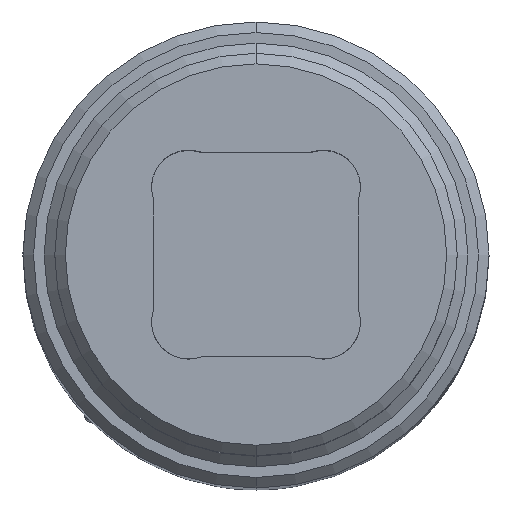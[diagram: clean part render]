
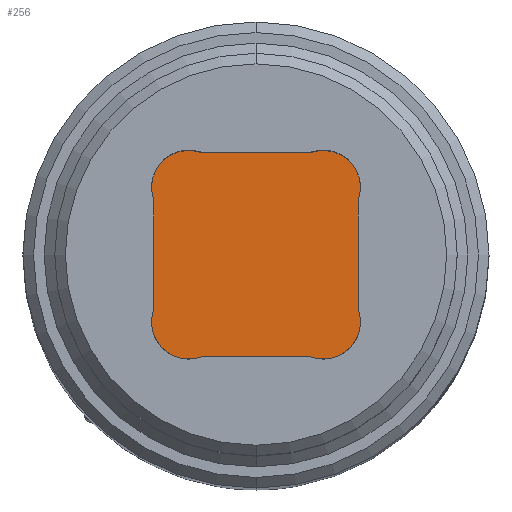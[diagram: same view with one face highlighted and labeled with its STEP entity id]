
A CAD part, top view. The second image highlights one B-rep face of the part: STEP entity #256.
In plain terms, the highlighted planar face has unit normal (0, 0, 1).
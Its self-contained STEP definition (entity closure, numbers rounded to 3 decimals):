
#5 = EDGE_CURVE ( 'NONE', #6493, #6676, #2162, .T. ) ;
#187 = CARTESIAN_POINT ( 'NONE',  ( 19.653, -27.448, 44.48 ) ) ;
#256 = ADVANCED_FACE ( 'NONE', ( #4688 ), #7886, .T. ) ;
#307 = ORIENTED_EDGE ( 'NONE', *, *, #2586, .T. ) ;
#430 = CARTESIAN_POINT ( 'NONE',  ( 20.158, -25.773, 44.48 ) ) ;
#469 = VERTEX_POINT ( 'NONE', #3594 ) ;
#504 = CARTESIAN_POINT ( 'NONE',  ( 28.65, -33.019, 44.48 ) ) ;
#538 = DIRECTION ( 'NONE',  ( 0., -1., 0. ) ) ;
#581 = VECTOR ( 'NONE', #6002, 1000. ) ;
#653 = ORIENTED_EDGE ( 'NONE', *, *, #5574, .T. ) ;
#700 = DIRECTION ( 'NONE',  ( 0., -1., 0. ) ) ;
#780 = AXIS2_PLACEMENT_3D ( 'NONE', #6332, #8509, #6971 ) ;
#829 = CARTESIAN_POINT ( 'NONE',  ( 25.512, -35.488, 44.48 ) ) ;
#867 = VERTEX_POINT ( 'NONE', #9206 ) ;
#919 = DIRECTION ( 'NONE',  ( 0., 0., 1. ) ) ;
#926 = AXIS2_PLACEMENT_3D ( 'NONE', #6164, #3962, #7624 ) ;
#1009 = CARTESIAN_POINT ( 'NONE',  ( 26.017, -27.448, 44.48 ) ) ;
#1018 = EDGE_CURVE ( 'NONE', #6676, #2036, #4561, .T. ) ;
#1019 = ORIENTED_EDGE ( 'NONE', *, *, #5186, .T. ) ;
#1092 = ORIENTED_EDGE ( 'NONE', *, *, #9053, .T. ) ;
#1103 = AXIS2_PLACEMENT_3D ( 'NONE', #504, #4168, #538 ) ;
#1339 = DIRECTION ( 'NONE',  ( 1., 0., 0. ) ) ;
#1346 = DIRECTION ( 'NONE',  ( 0., 0., -1. ) ) ;
#1426 = CIRCLE ( 'NONE', #8154, 1. ) ;
#1427 = CARTESIAN_POINT ( 'NONE',  ( 20.446, -36.445, 44.48 ) ) ;
#1481 = CARTESIAN_POINT ( 'NONE',  ( 20.446, -35.445, 44.48 ) ) ;
#1547 = ORIENTED_EDGE ( 'NONE', *, *, #4468, .T. ) ;
#1624 = DIRECTION ( 'NONE',  ( 0., -1., 0. ) ) ;
#1688 = ORIENTED_EDGE ( 'NONE', *, *, #6694, .T. ) ;
#1864 = DIRECTION ( 'NONE',  ( 0., -1., 0. ) ) ;
#1969 = CARTESIAN_POINT ( 'NONE',  ( 26.017, -33.812, 44.48 ) ) ;
#2000 = CARTESIAN_POINT ( 'NONE',  ( 17.977, -33.307, 44.48 ) ) ;
#2036 = VERTEX_POINT ( 'NONE', #7457 ) ;
#2102 = ORIENTED_EDGE ( 'NONE', *, *, #7222, .T. ) ;
#2156 = CARTESIAN_POINT ( 'NONE',  ( 25.512, -25.773, 44.48 ) ) ;
#2162 = CIRCLE ( 'NONE', #2747, 1.75 ) ;
#2228 = VERTEX_POINT ( 'NONE', #1481 ) ;
#2256 = CARTESIAN_POINT ( 'NONE',  ( 25.223, -35.445, 44.48 ) ) ;
#2262 = ORIENTED_EDGE ( 'NONE', *, *, #5314, .T. ) ;
#2308 = AXIS2_PLACEMENT_3D ( 'NONE', #5728, #1346, #5760 ) ;
#2411 = VECTOR ( 'NONE', #5794, 1000. ) ;
#2450 = CARTESIAN_POINT ( 'NONE',  ( 20.446, -25.815, 44.48 ) ) ;
#2512 = LINE ( 'NONE', #3175, #6627 ) ;
#2519 = LINE ( 'NONE', #6707, #581 ) ;
#2586 = EDGE_CURVE ( 'NONE', #2036, #867, #2519, .T. ) ;
#2620 = AXIS2_PLACEMENT_3D ( 'NONE', #5659, #5790, #6486 ) ;
#2696 = CIRCLE ( 'NONE', #780, 1. ) ;
#2734 = CARTESIAN_POINT ( 'NONE',  ( 19.653, -33.812, 44.48 ) ) ;
#2747 = AXIS2_PLACEMENT_3D ( 'NONE', #1969, #5529, #8568 ) ;
#2815 = DIRECTION ( 'NONE',  ( 0., -1., 0. ) ) ;
#2868 = CIRCLE ( 'NONE', #5261, 1.75 ) ;
#2881 = DIRECTION ( 'NONE',  ( 0., 0., -1. ) ) ;
#2954 = DIRECTION ( 'NONE',  ( 0., 0., -1. ) ) ;
#2956 = ORIENTED_EDGE ( 'NONE', *, *, #5025, .T. ) ;
#3046 = VERTEX_POINT ( 'NONE', #430 ) ;
#3056 = CARTESIAN_POINT ( 'NONE',  ( 20.158, -35.488, 44.48 ) ) ;
#3084 = EDGE_CURVE ( 'NONE', #6005, #5482, #3775, .T. ) ;
#3170 = CARTESIAN_POINT ( 'NONE',  ( 25.223, -25.815, 44.48 ) ) ;
#3175 = CARTESIAN_POINT ( 'NONE',  ( 18.02, -28.077, 44.48 ) ) ;
#3313 = DIRECTION ( 'NONE',  ( 0., -1., 0. ) ) ;
#3407 = VECTOR ( 'NONE', #1339, 1000. ) ;
#3547 = EDGE_CURVE ( 'NONE', #5713, #469, #2512, .T. ) ;
#3552 = DIRECTION ( 'NONE',  ( 0., 0., 1. ) ) ;
#3563 = AXIS2_PLACEMENT_3D ( 'NONE', #8543, #6238, #1864 ) ;
#3594 = CARTESIAN_POINT ( 'NONE',  ( 18.02, -33.019, 44.48 ) ) ;
#3686 = EDGE_CURVE ( 'NONE', #7104, #8146, #8234, .T. ) ;
#3739 = ORIENTED_EDGE ( 'NONE', *, *, #3686, .T. ) ;
#3775 = LINE ( 'NONE', #6437, #2411 ) ;
#3803 = VERTEX_POINT ( 'NONE', #9393 ) ;
#3962 = DIRECTION ( 'NONE',  ( 0., 0., -1. ) ) ;
#3974 = ORIENTED_EDGE ( 'NONE', *, *, #4699, .T. ) ;
#4053 = CIRCLE ( 'NONE', #5801, 1. ) ;
#4168 = DIRECTION ( 'NONE',  ( 0., 0., -1. ) ) ;
#4265 = DIRECTION ( 'NONE',  ( 0., -1., 0. ) ) ;
#4315 = AXIS2_PLACEMENT_3D ( 'NONE', #8654, #2881, #2815 ) ;
#4468 = EDGE_CURVE ( 'NONE', #867, #7104, #8388, .T. ) ;
#4474 = DIRECTION ( 'NONE',  ( 0., -1., 0. ) ) ;
#4561 = CIRCLE ( 'NONE', #1103, 1. ) ;
#4688 = FACE_OUTER_BOUND ( 'NONE', #7943, .T. ) ;
#4699 = EDGE_CURVE ( 'NONE', #3046, #3803, #2868, .T. ) ;
#4782 = AXIS2_PLACEMENT_3D ( 'NONE', #2734, #3552, #6450 ) ;
#4840 = CARTESIAN_POINT ( 'NONE',  ( 27.692, -33.307, 44.48 ) ) ;
#5025 = EDGE_CURVE ( 'NONE', #3803, #5713, #2696, .T. ) ;
#5111 = CIRCLE ( 'NONE', #2620, 1. ) ;
#5186 = EDGE_CURVE ( 'NONE', #5482, #3046, #5111, .T. ) ;
#5261 = AXIS2_PLACEMENT_3D ( 'NONE', #187, #919, #4474 ) ;
#5314 = EDGE_CURVE ( 'NONE', #6906, #2228, #1426, .T. ) ;
#5354 = VERTEX_POINT ( 'NONE', #2256 ) ;
#5482 = VERTEX_POINT ( 'NONE', #2450 ) ;
#5529 = DIRECTION ( 'NONE',  ( 0., 0., 1. ) ) ;
#5574 = EDGE_CURVE ( 'NONE', #8146, #6005, #9438, .T. ) ;
#5652 = CARTESIAN_POINT ( 'NONE',  ( 27.692, -27.953, 44.48 ) ) ;
#5659 = CARTESIAN_POINT ( 'NONE',  ( 20.446, -24.815, 44.48 ) ) ;
#5713 = VERTEX_POINT ( 'NONE', #8468 ) ;
#5728 = CARTESIAN_POINT ( 'NONE',  ( 28.65, -28.242, 44.48 ) ) ;
#5760 = DIRECTION ( 'NONE',  ( 0., -1., 0. ) ) ;
#5790 = DIRECTION ( 'NONE',  ( 0., 0., -1. ) ) ;
#5794 = DIRECTION ( 'NONE',  ( -1., 0., 0. ) ) ;
#5801 = AXIS2_PLACEMENT_3D ( 'NONE', #8688, #8005, #4265 ) ;
#6002 = DIRECTION ( 'NONE',  ( 0., 1., 0. ) ) ;
#6005 = VERTEX_POINT ( 'NONE', #3170 ) ;
#6017 = CIRCLE ( 'NONE', #4315, 1. ) ;
#6125 = DIRECTION ( 'NONE',  ( 0., 0., 1. ) ) ;
#6164 = CARTESIAN_POINT ( 'NONE',  ( 25.223, -24.815, 44.48 ) ) ;
#6238 = DIRECTION ( 'NONE',  ( 0., 0., 1. ) ) ;
#6332 = CARTESIAN_POINT ( 'NONE',  ( 17.02, -28.242, 44.48 ) ) ;
#6343 = ORIENTED_EDGE ( 'NONE', *, *, #3547, .T. ) ;
#6437 = CARTESIAN_POINT ( 'NONE',  ( 25.388, -25.815, 44.48 ) ) ;
#6450 = DIRECTION ( 'NONE',  ( 0., -1., 0. ) ) ;
#6482 = CARTESIAN_POINT ( 'NONE',  ( 20.282, -35.445, 44.48 ) ) ;
#6486 = DIRECTION ( 'NONE',  ( 0., -1., 0. ) ) ;
#6493 = VERTEX_POINT ( 'NONE', #829 ) ;
#6561 = ORIENTED_EDGE ( 'NONE', *, *, #3084, .T. ) ;
#6627 = VECTOR ( 'NONE', #1624, 1000. ) ;
#6676 = VERTEX_POINT ( 'NONE', #4840 ) ;
#6694 = EDGE_CURVE ( 'NONE', #7121, #6906, #8575, .T. ) ;
#6707 = CARTESIAN_POINT ( 'NONE',  ( 27.65, -33.183, 44.48 ) ) ;
#6906 = VERTEX_POINT ( 'NONE', #3056 ) ;
#6971 = DIRECTION ( 'NONE',  ( 0., -1., 0. ) ) ;
#7104 = VERTEX_POINT ( 'NONE', #5652 ) ;
#7121 = VERTEX_POINT ( 'NONE', #2000 ) ;
#7201 = EDGE_CURVE ( 'NONE', #5354, #6493, #6017, .T. ) ;
#7222 = EDGE_CURVE ( 'NONE', #469, #7121, #4053, .T. ) ;
#7252 = ORIENTED_EDGE ( 'NONE', *, *, #7201, .T. ) ;
#7457 = CARTESIAN_POINT ( 'NONE',  ( 27.65, -33.019, 44.48 ) ) ;
#7624 = DIRECTION ( 'NONE',  ( 0., -1., 0. ) ) ;
#7871 = ORIENTED_EDGE ( 'NONE', *, *, #5, .T. ) ;
#7886 = PLANE ( 'NONE',  #4782 ) ;
#7943 = EDGE_LOOP ( 'NONE', ( #6343, #2102, #1688, #2262, #1092, #7252, #7871, #8081, #307, #1547, #3739, #653, #6561, #1019, #3974, #2956 ) ) ;
#8005 = DIRECTION ( 'NONE',  ( 0., 0., -1. ) ) ;
#8081 = ORIENTED_EDGE ( 'NONE', *, *, #1018, .T. ) ;
#8146 = VERTEX_POINT ( 'NONE', #2156 ) ;
#8154 = AXIS2_PLACEMENT_3D ( 'NONE', #1427, #2954, #700 ) ;
#8234 = CIRCLE ( 'NONE', #8810, 1.75 ) ;
#8388 = CIRCLE ( 'NONE', #2308, 1. ) ;
#8468 = CARTESIAN_POINT ( 'NONE',  ( 18.02, -28.242, 44.48 ) ) ;
#8509 = DIRECTION ( 'NONE',  ( 0., 0., -1. ) ) ;
#8543 = CARTESIAN_POINT ( 'NONE',  ( 19.653, -33.812, 44.48 ) ) ;
#8568 = DIRECTION ( 'NONE',  ( 0., -1., 0. ) ) ;
#8571 = LINE ( 'NONE', #6482, #3407 ) ;
#8575 = CIRCLE ( 'NONE', #3563, 1.75 ) ;
#8654 = CARTESIAN_POINT ( 'NONE',  ( 25.223, -36.445, 44.48 ) ) ;
#8688 = CARTESIAN_POINT ( 'NONE',  ( 17.02, -33.019, 44.48 ) ) ;
#8810 = AXIS2_PLACEMENT_3D ( 'NONE', #1009, #6125, #3313 ) ;
#9053 = EDGE_CURVE ( 'NONE', #2228, #5354, #8571, .T. ) ;
#9206 = CARTESIAN_POINT ( 'NONE',  ( 27.65, -28.242, 44.48 ) ) ;
#9393 = CARTESIAN_POINT ( 'NONE',  ( 17.977, -27.953, 44.48 ) ) ;
#9438 = CIRCLE ( 'NONE', #926, 1. ) ;
